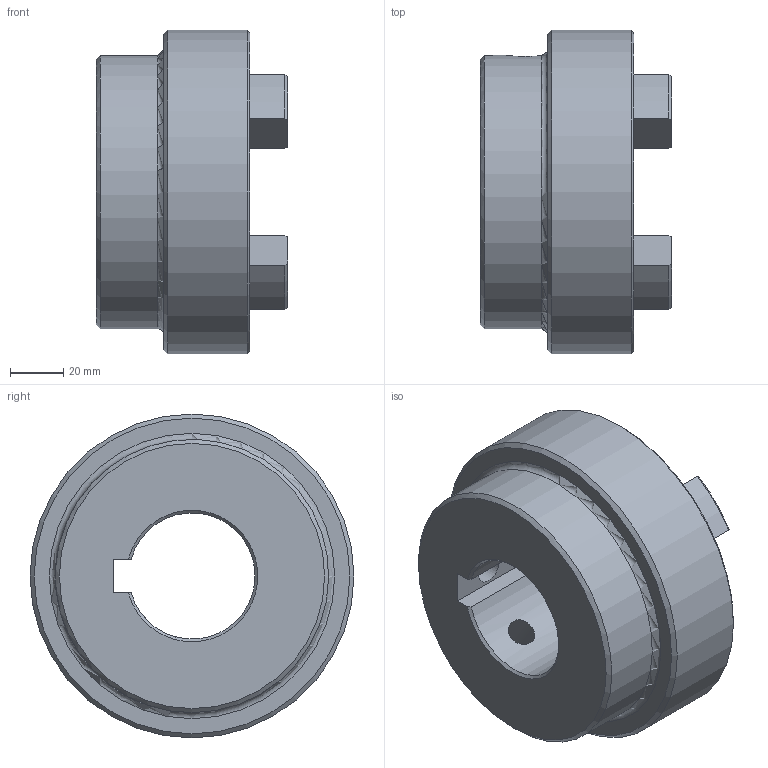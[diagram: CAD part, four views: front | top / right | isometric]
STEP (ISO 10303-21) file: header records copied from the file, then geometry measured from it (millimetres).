
FILE_DESCRIPTION (( 'STEP AP203' ), '1' );
FILE_NAME ('RC5.step', '2024-07-25T13:37:36', ( 'Adlan' ), ( '' ), 'SwSTEP 2.0', 'SolidWorks 2013', '' );
FILE_SCHEMA (( 'CONFIG_CONTROL_DESIGN' ));
Length unit declared in the file: inch
Products named in the file (1): RC5
Bounding box: 72.14 x 122.17 x 122.17 mm (x, y, z)
Volume: 398492.7 mm3; surface area: 59942.4 mm2
Topology: 1 solids, 1 shells, 85 faces, 224 edges, 141 vertices
Faces by surface type: cylinder 33, plane 21, torus 17, cone 14
Full cylindrical faces by diameter (mm): 10.716 x2, 103.124 x1, 122.174 x1
Entity records: 2895 total; most frequent: CARTESIAN_POINT 744, DIRECTION 456, ORIENTED_EDGE 416, EDGE_CURVE 208, AXIS2_PLACEMENT_3D 183, VERTEX_POINT 135, EDGE_LOOP 101, CIRCLE 97
